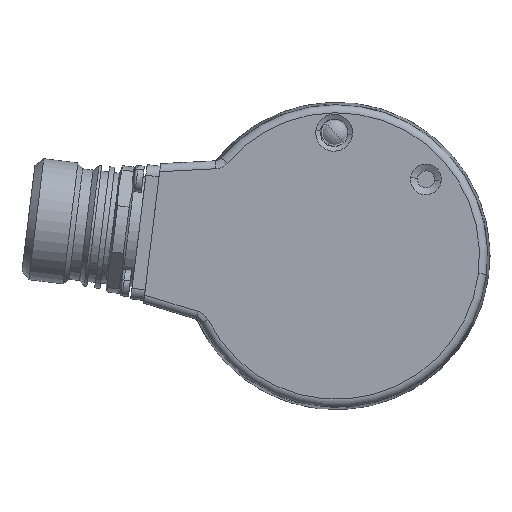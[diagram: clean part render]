
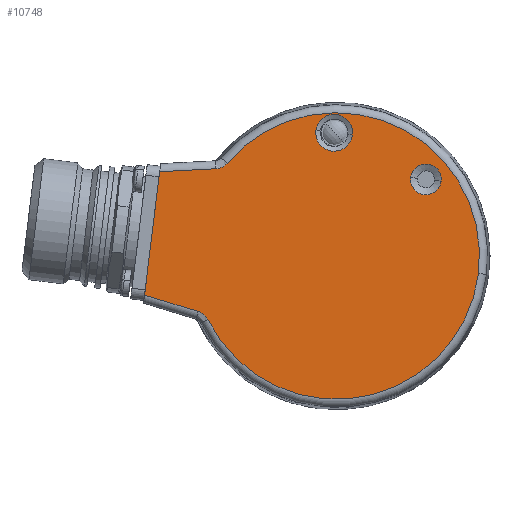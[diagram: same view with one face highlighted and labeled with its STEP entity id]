
A CAD part, left-side view. The second image highlights one B-rep face of the part: STEP entity #10748.
In plain terms, the highlighted planar face has unit normal (-1, 0, 0).
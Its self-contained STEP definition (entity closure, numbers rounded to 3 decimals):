
#4407 = CARTESIAN_POINT ( 'NONE',  ( -30.5, 20.579, 23.946 ) ) ;
#4490 = CARTESIAN_POINT ( 'NONE',  ( -30.5, -26.821, 3.14 ) ) ;
#4491 = DIRECTION ( 'NONE',  ( 0., -0.993, -0.122 ) ) ;
#4492 = DIRECTION ( 'NONE',  ( -1., 0., 0. ) ) ;
#4493 = CARTESIAN_POINT ( 'NONE',  ( -30.5, 0., 6.433 ) ) ;
#4494 = AXIS2_PLACEMENT_3D ( 'NONE', #4493, #4492, #4491 ) ;
#4495 = CIRCLE ( 'NONE', #4494, 27.022 ) ;
#4782 = CARTESIAN_POINT ( 'NONE',  ( -30.5, 26.015, -4.045 ) ) ;
#4797 = DIRECTION ( 'NONE',  ( 0., -0.956, -0.292 ) ) ;
#4798 = VECTOR ( 'NONE', #4797, 1000. ) ;
#4799 = CARTESIAN_POINT ( 'NONE',  ( -30.5, 25.362, -4.244 ) ) ;
#4800 = LINE ( 'NONE', #4799, #4798 ) ;
#4803 = DIRECTION ( 'NONE',  ( 0., -0.993, -0.122 ) ) ;
#4804 = DIRECTION ( 'NONE',  ( 1., 0., 0. ) ) ;
#4805 = CARTESIAN_POINT ( 'NONE',  ( -30.5, -16.919, 20.883 ) ) ;
#4806 = AXIS2_PLACEMENT_3D ( 'NONE', #4805, #4804, #4803 ) ;
#4811 = CIRCLE ( 'NONE', #4806, 2.899 ) ;
#4920 = CARTESIAN_POINT ( 'NONE',  ( -30.5, -14.042, 21.237 ) ) ;
#4921 = DIRECTION ( 'NONE',  ( 0., -0.993, -0.122 ) ) ;
#4922 = DIRECTION ( 'NONE',  ( 1., 0., 0. ) ) ;
#4923 = CARTESIAN_POINT ( 'NONE',  ( -30.5, -16.919, 20.883 ) ) ;
#4924 = AXIS2_PLACEMENT_3D ( 'NONE', #4923, #4922, #4921 ) ;
#4925 = CIRCLE ( 'NONE', #4924, 2.899 ) ;
#4937 = CARTESIAN_POINT ( 'NONE',  ( -30.5, 3.846, 30.102 ) ) ;
#4938 = DIRECTION ( 'NONE',  ( 0., -0.993, -0.122 ) ) ;
#4939 = DIRECTION ( 'NONE',  ( 1., 0., 0. ) ) ;
#4940 = CARTESIAN_POINT ( 'NONE',  ( -30.5, 0.406, 29.68 ) ) ;
#4941 = AXIS2_PLACEMENT_3D ( 'NONE', #4940, #4939, #4938 ) ;
#4957 = CARTESIAN_POINT ( 'NONE',  ( -30.5, 22.708, 22.894 ) ) ;
#5003 = CARTESIAN_POINT ( 'NONE',  ( -30.5, 33.31, 22.338 ) ) ;
#5008 = CIRCLE ( 'NONE', #4941, 3.466 ) ;
#5101 = CARTESIAN_POINT ( 'NONE',  ( -30.5, 24.205, -5.58 ) ) ;
#5130 = CARTESIAN_POINT ( 'NONE',  ( -30.5, 26.015, -4.045 ) ) ;
#5131 = CARTESIAN_POINT ( 'NONE',  ( -30.5, 25.819, -4.105 ) ) ;
#5132 = CARTESIAN_POINT ( 'NONE',  ( -30.5, 25.632, -4.184 ) ) ;
#5133 = CARTESIAN_POINT ( 'NONE',  ( -30.5, 25.277, -4.377 ) ) ;
#5134 = CARTESIAN_POINT ( 'NONE',  ( -30.5, 25.107, -4.494 ) ) ;
#5135 = CARTESIAN_POINT ( 'NONE',  ( -30.5, 24.797, -4.757 ) ) ;
#5136 = CARTESIAN_POINT ( 'NONE',  ( -30.5, 24.657, -4.902 ) ) ;
#5137 = CARTESIAN_POINT ( 'NONE',  ( -30.5, 24.406, -5.222 ) ) ;
#5138 = CARTESIAN_POINT ( 'NONE',  ( -30.5, 24.296, -5.397 ) ) ;
#5139 = CARTESIAN_POINT ( 'NONE',  ( -30.5, 24.205, -5.58 ) ) ;
#5147 = B_SPLINE_CURVE_WITH_KNOTS ( 'NONE', 3,
 ( #5139, #5138, #5137, #5136, #5135, #5134, #5133, #5132, #5131, #5130 ),
 .UNSPECIFIED., .F., .F.,
 ( 4, 2, 2, 2, 4 ),
 ( 0., 0.001, 0.001, 0.002, 0.002 ),
 .UNSPECIFIED. ) ;
#5150 = CARTESIAN_POINT ( 'NONE',  ( -30.5, 36.168, -0.941 ) ) ;
#5190 = CARTESIAN_POINT ( 'NONE',  ( -30.5, -3.034, 29.257 ) ) ;
#5549 = DIRECTION ( 'NONE',  ( 0., -0.993, -0.122 ) ) ;
#5550 = DIRECTION ( 'NONE',  ( 1., 0., 0. ) ) ;
#5551 = CARTESIAN_POINT ( 'NONE',  ( -30.5, 0., 6.433 ) ) ;
#5552 = AXIS2_PLACEMENT_3D ( 'NONE', #5551, #5550, #5549 ) ;
#5554 = PLANE ( 'NONE',  #5552 ) ;
#5568 = FACE_OUTER_BOUND ( 'NONE', #10731, .T. ) ;
#5569 = FACE_BOUND ( 'NONE', #10942, .T. ) ;
#5613 = FACE_BOUND ( 'NONE', #10749, .T. ) ;
#5614 = DIRECTION ( 'NONE',  ( 0., -0.993, -0.122 ) ) ;
#5615 = DIRECTION ( 'NONE',  ( 1., 0., 0. ) ) ;
#5616 = CARTESIAN_POINT ( 'NONE',  ( -30.5, 0.406, 29.68 ) ) ;
#5617 = AXIS2_PLACEMENT_3D ( 'NONE', #5616, #5615, #5614 ) ;
#5618 = CIRCLE ( 'NONE', #5617, 3.466 ) ;
#5728 = DIRECTION ( 'NONE',  ( 0., -0.122, 0.993 ) ) ;
#5729 = VECTOR ( 'NONE', #5728, 1000. ) ;
#5730 = CARTESIAN_POINT ( 'NONE',  ( -30.5, 36.354, -2.453 ) ) ;
#5731 = LINE ( 'NONE', #5730, #5729 ) ;
#5993 = CARTESIAN_POINT ( 'NONE',  ( -30.5, 20.579, 23.946 ) ) ;
#5994 = CARTESIAN_POINT ( 'NONE',  ( -30.5, 20.712, 23.789 ) ) ;
#5995 = CARTESIAN_POINT ( 'NONE',  ( -30.5, 20.859, 23.649 ) ) ;
#5996 = CARTESIAN_POINT ( 'NONE',  ( -30.5, 21.178, 23.401 ) ) ;
#5997 = CARTESIAN_POINT ( 'NONE',  ( -30.5, 21.352, 23.291 ) ) ;
#5998 = CARTESIAN_POINT ( 'NONE',  ( -30.5, 21.716, 23.111 ) ) ;
#5999 = CARTESIAN_POINT ( 'NONE',  ( -30.5, 21.906, 23.04 ) ) ;
#6000 = CARTESIAN_POINT ( 'NONE',  ( -30.5, 22.299, 22.936 ) ) ;
#6001 = CARTESIAN_POINT ( 'NONE',  ( -30.5, 22.503, 22.905 ) ) ;
#6131 = DIRECTION ( 'NONE',  ( 0., -0.993, -0.122 ) ) ;
#6132 = DIRECTION ( 'NONE',  ( -1., 0., 0. ) ) ;
#6133 = CARTESIAN_POINT ( 'NONE',  ( -30.5, 0., 6.433 ) ) ;
#6134 = AXIS2_PLACEMENT_3D ( 'NONE', #6133, #6132, #6131 ) ;
#6140 = CIRCLE ( 'NONE', #6134, 27.022 ) ;
#6150 = CARTESIAN_POINT ( 'NONE',  ( -30.5, 22.708, 22.894 ) ) ;
#6151 = DIRECTION ( 'NONE',  ( 0., 0.999, -0.052 ) ) ;
#6152 = VECTOR ( 'NONE', #6151, 1000. ) ;
#6153 = CARTESIAN_POINT ( 'NONE',  ( -30.5, 33.046, 22.352 ) ) ;
#6154 = LINE ( 'NONE', #6153, #6152 ) ;
#6156 = B_SPLINE_CURVE_WITH_KNOTS ( 'NONE', 3,
 ( #6150, #6001, #6000, #5999, #5998, #5997, #5996, #5995, #5994, #5993 ),
 .UNSPECIFIED., .F., .F.,
 ( 4, 2, 2, 2, 4 ),
 ( 0., 0.001, 0.001, 0.002, 0.002 ),
 .UNSPECIFIED. ) ;
#6172 = CARTESIAN_POINT ( 'NONE',  ( -30.5, -19.796, 20.53 ) ) ;
#10548 = EDGE_CURVE ( 'NONE', #10549, #10550, #4495, .T. ) ;
#10549 = VERTEX_POINT ( 'NONE', #4490 ) ;
#10550 = VERTEX_POINT ( 'NONE', #4407 ) ;
#10568 = VERTEX_POINT ( 'NONE', #4782 ) ;
#10570 = EDGE_CURVE ( 'NONE', #10688, #10568, #4800, .T. ) ;
#10582 = EDGE_CURVE ( 'NONE', #10839, #10643, #4811, .T. ) ;
#10590 = VERTEX_POINT ( 'NONE', #4957 ) ;
#10596 = VERTEX_POINT ( 'NONE', #5003 ) ;
#10630 = EDGE_CURVE ( 'NONE', #10631, #10673, #5008, .T. ) ;
#10631 = VERTEX_POINT ( 'NONE', #4937 ) ;
#10642 = EDGE_CURVE ( 'NONE', #10643, #10839, #4925, .T. ) ;
#10643 = VERTEX_POINT ( 'NONE', #4920 ) ;
#10673 = VERTEX_POINT ( 'NONE', #5190 ) ;
#10688 = VERTEX_POINT ( 'NONE', #5150 ) ;
#10693 = VERTEX_POINT ( 'NONE', #5101 ) ;
#10695 = EDGE_CURVE ( 'NONE', #10693, #10568, #5147, .T. ) ;
#10730 = ORIENTED_EDGE ( 'NONE', *, *, #10582, .T. ) ;
#10731 = EDGE_LOOP ( 'NONE', ( #10732, #10733, #10734, #10736, #10737, #10872, #10873 ) ) ;
#10732 = ORIENTED_EDGE ( 'NONE', *, *, #10818, .F. ) ;
#10733 = ORIENTED_EDGE ( 'NONE', *, *, #10819, .T. ) ;
#10734 = ORIENTED_EDGE ( 'NONE', *, *, #10735, .F. ) ;
#10735 = EDGE_CURVE ( 'NONE', #10688, #10596, #5731, .T. ) ;
#10736 = ORIENTED_EDGE ( 'NONE', *, *, #10570, .T. ) ;
#10737 = ORIENTED_EDGE ( 'NONE', *, *, #10695, .F. ) ;
#10747 = EDGE_CURVE ( 'NONE', #10673, #10631, #5618, .T. ) ;
#10748 = ADVANCED_FACE ( 'NONE', ( #5613, #5569, #5568 ), #5554, .F. ) ;
#10749 = EDGE_LOOP ( 'NONE', ( #10922, #10923 ) ) ;
#10809 = EDGE_CURVE ( 'NONE', #10693, #10549, #6140, .T. ) ;
#10818 = EDGE_CURVE ( 'NONE', #10590, #10550, #6156, .T. ) ;
#10819 = EDGE_CURVE ( 'NONE', #10590, #10596, #6154, .T. ) ;
#10839 = VERTEX_POINT ( 'NONE', #6172 ) ;
#10872 = ORIENTED_EDGE ( 'NONE', *, *, #10809, .T. ) ;
#10873 = ORIENTED_EDGE ( 'NONE', *, *, #10548, .T. ) ;
#10874 = ORIENTED_EDGE ( 'NONE', *, *, #10642, .T. ) ;
#10922 = ORIENTED_EDGE ( 'NONE', *, *, #10630, .T. ) ;
#10923 = ORIENTED_EDGE ( 'NONE', *, *, #10747, .T. ) ;
#10942 = EDGE_LOOP ( 'NONE', ( #10874, #10730 ) ) ;
